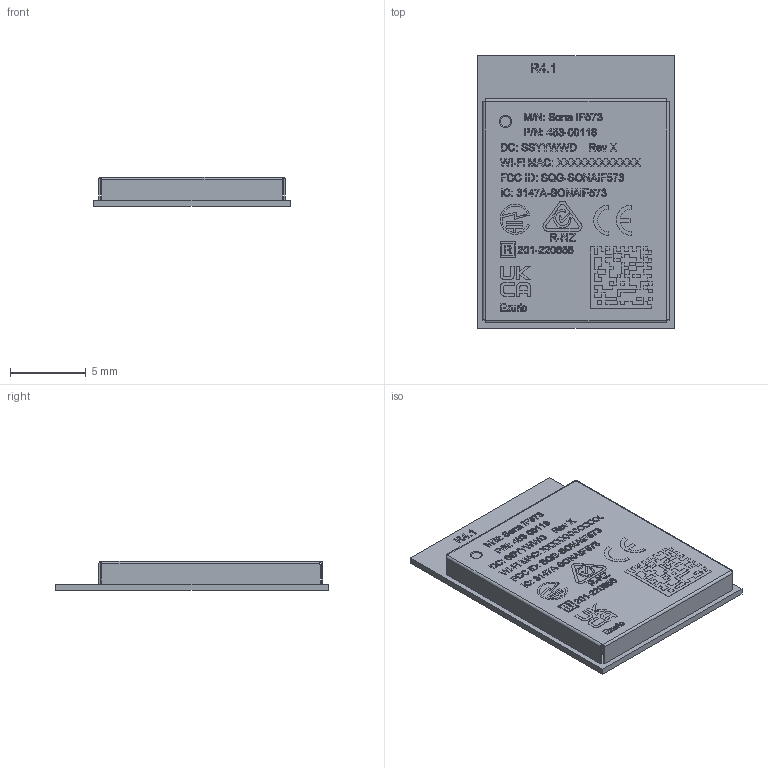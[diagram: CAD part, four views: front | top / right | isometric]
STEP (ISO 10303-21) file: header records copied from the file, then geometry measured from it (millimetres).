
FILE_DESCRIPTION (( 'STEP AP214' ), '1' );
FILE_NAME ('453-00118.STEP', '2026-05-25T09:58:41', ( '' ), ( '' ), 'SwSTEP 2.0', 'SolidWorks 2025', '' );
FILE_SCHEMA (( 'AUTOMOTIVE_DESIGN' ));
Length unit declared in the file: millimetre
Products named in the file (4): 110-00817_453-00118; 750-03373-11108201_940-00165, MIMO, ST; 453-00118; 940-00165_453-00118_Laser
Assembly tree (3 placements, depth 3):
  453-00118
    940-00165_453-00118_Laser
      750-03373-11108201_940-00165, MIMO, ST
      110-00817_453-00118
Bounding box: 13 x 18 x 1.92 mm (x, y, z)
Volume: 148.6 mm3; surface area: 1420.7 mm2
Topology: 412 solids, 412 shells, 5828 faces, 13863 edges, 8936 vertices
Faces by surface type: plane 4359, bspline 719, cylinder 588, sphere 160, torus 2
Entity records: 264136 total; most frequent: CARTESIAN_POINT 67350, ORIENTED_EDGE 27406, DIRECTION 23699, EDGE_CURVE 13703, VECTOR 11095, LINE 11095, VERTEX_POINT 8936, AXIS2_PLACEMENT_3D 6302
